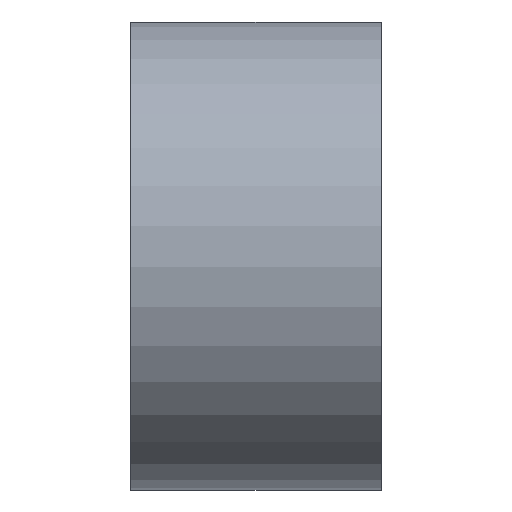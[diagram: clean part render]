
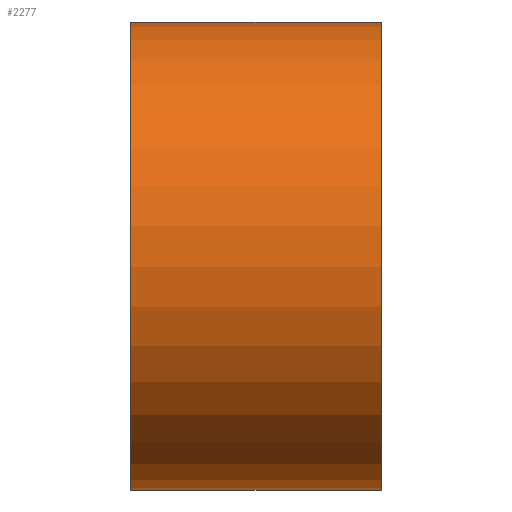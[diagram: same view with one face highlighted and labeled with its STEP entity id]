
A CAD part, front view. The second image highlights one B-rep face of the part: STEP entity #2277.
In plain terms, the highlighted cylindrical face has radius 22.407 mm (diameter 44.814 mm), a full revolution.
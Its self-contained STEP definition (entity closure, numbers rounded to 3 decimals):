
#150=LINE('',#3796,#238);
#238=VECTOR('',#2841,22.407);
#326=CIRCLE('',#2438,22.407);
#327=CIRCLE('',#2439,22.407);
#328=CIRCLE('',#2440,22.407);
#329=CIRCLE('',#2441,22.407);
#545=CYLINDRICAL_SURFACE('',#2437,22.407);
#578=FACE_OUTER_BOUND('',#722,.T.);
#722=EDGE_LOOP('',(#1558,#1559,#1560,#1561,#1562,#1563));
#951=VERTEX_POINT('',#3792);
#952=VERTEX_POINT('',#3793);
#953=VERTEX_POINT('',#3795);
#954=VERTEX_POINT('',#3797);
#1196=EDGE_CURVE('',#951,#952,#326,.T.);
#1197=EDGE_CURVE('',#952,#953,#150,.T.);
#1198=EDGE_CURVE('',#954,#953,#327,.T.);
#1199=EDGE_CURVE('',#953,#954,#328,.T.);
#1200=EDGE_CURVE('',#952,#951,#329,.T.);
#1558=ORIENTED_EDGE('',*,*,#1196,.T.);
#1559=ORIENTED_EDGE('',*,*,#1197,.T.);
#1560=ORIENTED_EDGE('',*,*,#1198,.F.);
#1561=ORIENTED_EDGE('',*,*,#1199,.F.);
#1562=ORIENTED_EDGE('',*,*,#1197,.F.);
#1563=ORIENTED_EDGE('',*,*,#1200,.T.);
#2277=ADVANCED_FACE('',(#578),#545,.T.);
#2437=AXIS2_PLACEMENT_3D('',#3791,#2837,#2838);
#2438=AXIS2_PLACEMENT_3D('',#3794,#2839,#2840);
#2439=AXIS2_PLACEMENT_3D('',#3798,#2842,#2843);
#2440=AXIS2_PLACEMENT_3D('',#3799,#2844,#2845);
#2441=AXIS2_PLACEMENT_3D('',#3800,#2846,#2847);
#2837=DIRECTION('center_axis',(1.,0.,0.));
#2838=DIRECTION('ref_axis',(0.,0.46,0.888));
#2839=DIRECTION('center_axis',(-1.,0.,0.));
#2840=DIRECTION('ref_axis',(0.,-0.888,0.46));
#2841=DIRECTION('',(-1.,0.,0.));
#2842=DIRECTION('center_axis',(-1.,0.,0.));
#2843=DIRECTION('ref_axis',(0.,0.888,-0.46));
#2844=DIRECTION('center_axis',(-1.,0.,0.));
#2845=DIRECTION('ref_axis',(0.,0.888,-0.46));
#2846=DIRECTION('center_axis',(-1.,0.,0.));
#2847=DIRECTION('ref_axis',(0.,-0.888,0.46));
#3791=CARTESIAN_POINT('Origin',(-159.,-110.,164.));
#3792=CARTESIAN_POINT('',(-159.,-129.894,174.31));
#3793=CARTESIAN_POINT('',(-159.,-120.31,144.106));
#3794=CARTESIAN_POINT('Origin',(-159.,-110.,164.));
#3795=CARTESIAN_POINT('',(-183.,-120.31,144.106));
#3796=CARTESIAN_POINT('',(-159.,-120.31,144.106));
#3797=CARTESIAN_POINT('',(-183.,-129.894,174.31));
#3798=CARTESIAN_POINT('Origin',(-183.,-110.,164.));
#3799=CARTESIAN_POINT('Origin',(-183.,-110.,164.));
#3800=CARTESIAN_POINT('Origin',(-159.,-110.,164.));
